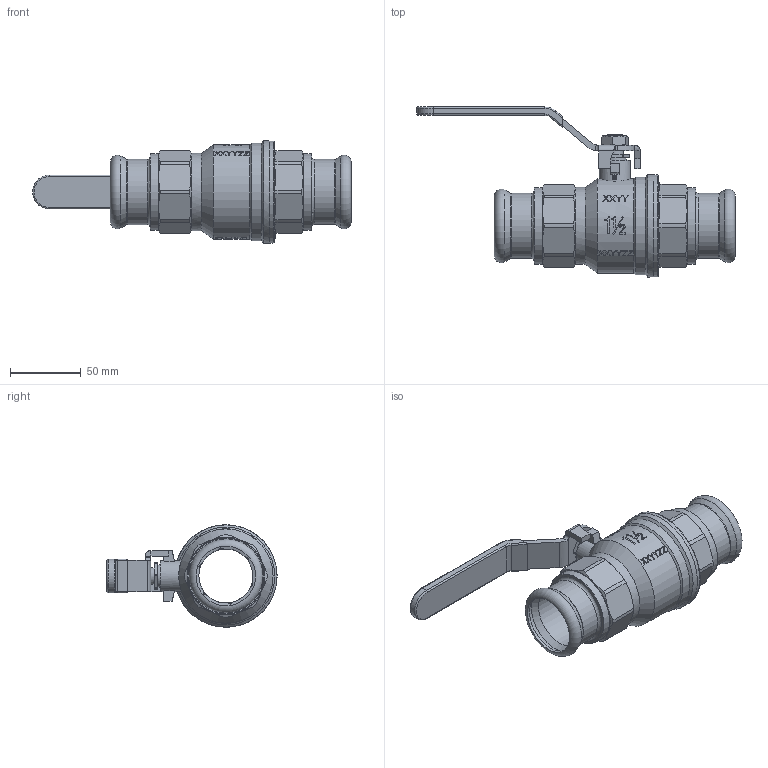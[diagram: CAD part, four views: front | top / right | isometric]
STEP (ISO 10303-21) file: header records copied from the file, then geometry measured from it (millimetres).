
FILE_DESCRIPTION((''),'2;1');
FILE_NAME('P:\Fastrack\53972_CRANE 3D\Press Fit\D171APF\D171A-PF\D171A-PF-42MM\D171A-PF-42MM.stp','2012-01-18T14:04:01',('dcole'),(''),'Autodesk Inventor 2008','Autodesk Inventor 2008','');
FILE_SCHEMA(('AUTOMOTIVE_DESIGN { 1 0 10303 214 1 1 1 1 }'));
Length unit declared in the file: millimetre
Products named in the file (1): D171A-PF-42MM
Bounding box: 225.1 x 120.15 x 72.3 mm (x, y, z)
Volume: 216411.8 mm3; surface area: 100660.4 mm2
Topology: 1 solids, 8 shells, 871 faces, 2572 edges, 1838 vertices
Faces by surface type: plane 432, bspline 200, cylinder 139, cone 78, torus 19, sphere 3
Full cylindrical faces by diameter (mm): 3 x1, 12 x2, 12.1 x2, 12.5 x1, 13 x1, 13.5 x1, 16 x1, 16.3 x1, 16.5 x2, 22 x1, 30 x1, 39.5 x3, 39.7 x2, 42 x4, 44.6 x2, 44.845 x1, 44.854 x1, 46 x2, 48.55 x2, 49 x2, 50 x4, 54 x2, 54.5 x1, 57.5 x1, 62 x1, 64 x1, 64.2 x1, 66.6 x1, 69 x1, 72.3 x2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
Entity records: 63000 total; most frequent: CARTESIAN_POINT 40800, ORIENTED_EDGE 4800, DIRECTION 3587, EDGE_CURVE 2400, VERTEX_POINT 1783, AXIS2_PLACEMENT_3D 1202, VECTOR 1183, LINE 1183
